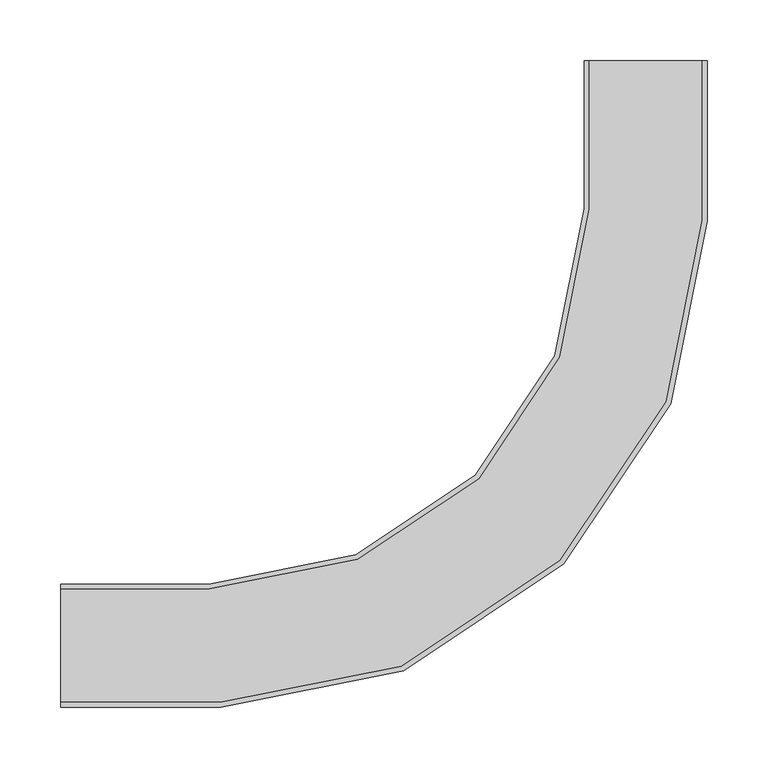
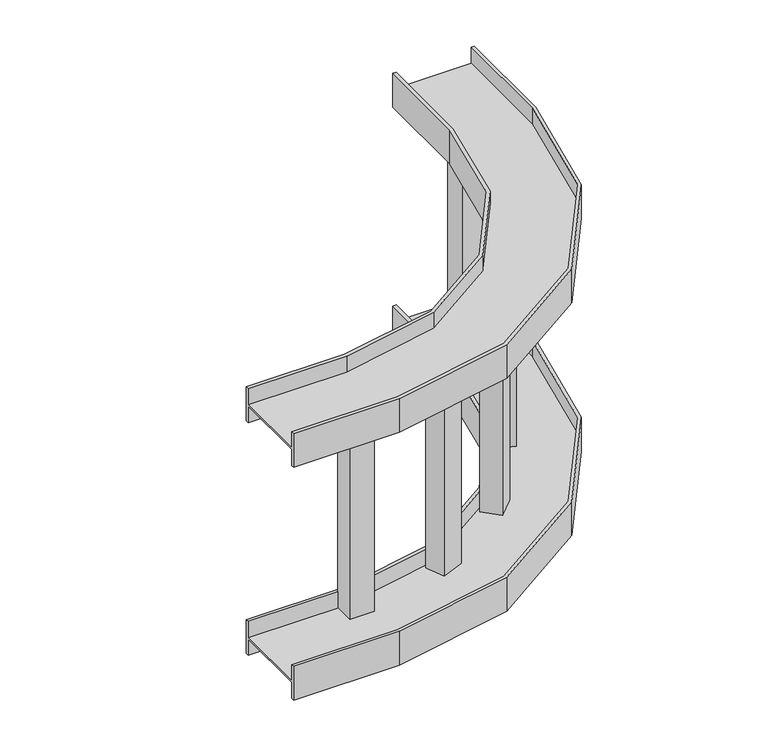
"""IFC4 building model written with IfcOpenShell, lengths in millimetres: cable carrier fitting geometry, CXI_Vertical_Outside_Bend-Basortrav : Basortrav CXI-12."""

from ifc_helpers import new_model, si_unit, frame, origin, place, context, project, spatial, polyline, outline, extrude, faceted_brep, source, transform, mapped, element, save


def cable_carrier_fitting_e62e78b4(model_context):
    return source(origin(), model_context, "Body", "SolidModel", [
        faceted_brep([(-482.6, -46.8, 175.5115599), (-482.6, -46.8, 154.4), (-482.6, 46.8, 154.4), (-482.6, 46.8, 175.5115599), (-482.6, 50.8, 175.5115599), (-482.6, 50.8, 131.0115599), (-482.6, 46.8, 131.0115599), (-482.6, 46.8, 152.4), (-482.6, -46.8, 152.4), (-482.6, -46.8, 131.0115599), (-482.6, -50.8, 131.0115599), (-482.6, -50.8, 175.5115599), (46.8, 482.6, 175.5115599), (50.8, 482.6, 175.5115599), (50.8, 482.6, 131.0115599), (46.8, 482.6, 131.0115599), (46.8, 482.6, 152.4), (-46.8, 482.6, 152.4), (-46.8, 482.6, 131.0115599), (-50.8, 482.6, 131.0115599), (-50.8, 482.6, 175.5115599), (-46.8, 482.6, 175.5115599), (-46.8, 482.6, 154.4), (46.8, 482.6, 154.4), (-350.9906023, -46.8, 175.5115599), (-350.9906023, -46.8, 154.4), (-201.2573173, -17.0161978, 154.4), (-70.4119089, 70.4119089, 154.4), (17.0161978, 201.2573173, 154.4), (46.8, 350.9906023, 154.4), (-46.8, 360.2093977, 154.4), (-71.1530743, 237.7782256, 154.4), (-137.8937483, 137.8937483, 154.4), (-237.7782256, 71.1530743, 154.4), (-360.2093977, 46.8, 154.4), (-360.2093977, 46.8, 175.5115599), (-237.7782256, 71.1530743, 175.5115599), (-137.8937483, 137.8937483, 175.5115599), (-71.1530743, 237.7782256, 175.5115599), (-46.8, 360.2093977, 175.5115599), (-50.8, 360.6033633, 175.5115599), (-74.9209919, 239.3389482, 175.5115599), (-140.7775876, 140.7775876, 175.5115599), (-239.3389482, 74.9209919, 175.5115599), (-360.6033633, 50.8, 175.5115599), (-360.6033633, 50.8, 131.0115599), (-239.3389482, 74.9209919, 131.0115599), (-140.7775876, 140.7775876, 131.0115599), (-74.9209919, 239.3389482, 131.0115599), (-50.8, 360.6033633, 131.0115599), (-46.8, 360.2093977, 131.0115599), (-71.1530743, 237.7782256, 131.0115599), (-137.8937483, 137.8937483, 131.0115599), (-237.7782256, 71.1530743, 131.0115599), (-360.2093977, 46.8, 131.0115599), (-360.2093977, 46.8, 152.4), (-237.7782256, 71.1530743, 152.4), (-137.8937483, 137.8937483, 152.4), (-71.1530743, 237.7782256, 152.4), (-46.8, 360.2093977, 152.4), (46.8, 350.9906023, 152.4), (17.0161978, 201.2573173, 152.4), (-70.4119089, 70.4119089, 152.4), (-201.2573173, -17.0161978, 152.4), (-350.9906023, -46.8, 152.4), (-350.9906023, -46.8, 131.0115599), (-201.2573173, -17.0161978, 131.0115599), (-70.4119089, 70.4119089, 131.0115599), (17.0161978, 201.2573173, 131.0115599), (46.8, 350.9906023, 131.0115599), (50.8, 350.5966367, 131.0115599), (20.7841154, 199.6965947, 131.0115599), (-67.5280697, 67.5280697, 131.0115599), (-199.6965947, -20.7841154, 131.0115599), (-350.5966367, -50.8, 131.0115599), (-350.5966367, -50.8, 175.5115599), (-199.6965947, -20.7841154, 175.5115599), (-67.5280697, 67.5280697, 175.5115599), (20.7841154, 199.6965947, 175.5115599), (50.8, 350.5966367, 175.5115599), (46.8, 350.9906023, 175.5115599), (17.0161978, 201.2573173, 175.5115599), (-70.4119089, 70.4119089, 175.5115599), (-201.2573173, -17.0161978, 175.5115599)], [[[0, 1, 2, 3, 4, 5, 6, 7, 8, 9, 10, 11]], [[12, 13, 14, 15, 16, 17, 18, 19, 20, 21, 22, 23]], [[1, 0, 24, 25]], [[2, 1, 25, 26, 27, 28, 29, 23, 22, 30, 31, 32, 33, 34]], [[3, 2, 34, 35]], [[4, 3, 35, 36, 37, 38, 39, 21, 20, 40, 41, 42, 43, 44]], [[5, 4, 44, 45]], [[6, 5, 45, 46, 47, 48, 49, 19, 18, 50, 51, 52, 53, 54]], [[7, 6, 54, 55]], [[8, 7, 55, 56, 57, 58, 59, 17, 16, 60, 61, 62, 63, 64]], [[9, 8, 64, 65]], [[10, 9, 65, 66, 67, 68, 69, 15, 14, 70, 71, 72, 73, 74]], [[11, 10, 74, 75]], [[0, 11, 75, 76, 77, 78, 79, 13, 12, 80, 81, 82, 83, 24]], [[29, 80, 12, 23]], [[39, 30, 22, 21]], [[49, 40, 20, 19]], [[59, 50, 18, 17]], [[69, 60, 16, 15]], [[79, 70, 14, 13]], [[25, 24, 83, 26]], [[35, 34, 33, 36]], [[45, 44, 43, 46]], [[55, 54, 53, 56]], [[65, 64, 63, 66]], [[75, 74, 73, 76]], [[26, 83, 82, 27]], [[36, 33, 32, 37]], [[46, 43, 42, 47]], [[56, 53, 52, 57]], [[66, 63, 62, 67]], [[76, 73, 72, 77]], [[27, 82, 81, 28]], [[37, 32, 31, 38]], [[47, 42, 41, 48]], [[57, 52, 51, 58]], [[67, 62, 61, 68]], [[77, 72, 71, 78]], [[28, 81, 80, 29]], [[38, 31, 30, 39]], [[48, 41, 40, 49]], [[58, 51, 50, 59]], [[68, 61, 60, 69]], [[78, 71, 70, 79]]]),
        faceted_brep([(-482.6, -46.8, -175.5115599), (-482.6, -50.8, -175.5115599), (-482.6, -50.8, -131.0115599), (-482.6, -46.8, -131.0115599), (-482.6, -46.8, -152.4), (-482.6, 46.8, -152.4), (-482.6, 46.8, -131.0115599), (-482.6, 50.8, -131.0115599), (-482.6, 50.8, -175.5115599), (-482.6, 46.8, -175.5115599), (-482.6, 46.8, -154.4), (-482.6, -46.8, -154.4), (46.8, 482.6, -175.5115599), (46.8, 482.6, -154.4), (-46.8, 482.6, -154.4), (-46.8, 482.6, -175.5115599), (-50.8, 482.6, -175.5115599), (-50.8, 482.6, -131.0115599), (-46.8, 482.6, -131.0115599), (-46.8, 482.6, -152.4), (46.8, 482.6, -152.4), (46.8, 482.6, -131.0115599), (50.8, 482.6, -131.0115599), (50.8, 482.6, -175.5115599), (-350.9906023, -46.8, -175.5115599), (-201.2573173, -17.0161978, -175.5115599), (-70.4119089, 70.4119089, -175.5115599), (17.0161978, 201.2573173, -175.5115599), (46.8, 350.9906023, -175.5115599), (50.8, 350.5966367, -175.5115599), (20.7841154, 199.6965947, -175.5115599), (-67.5280697, 67.5280697, -175.5115599), (-199.6965947, -20.7841154, -175.5115599), (-350.5966367, -50.8, -175.5115599), (-350.5966367, -50.8, -131.0115599), (-199.6965947, -20.7841154, -131.0115599), (-67.5280697, 67.5280697, -131.0115599), (20.7841154, 199.6965947, -131.0115599), (50.8, 350.5966367, -131.0115599), (46.8, 350.9906023, -131.0115599), (17.0161978, 201.2573173, -131.0115599), (-70.4119089, 70.4119089, -131.0115599), (-201.2573173, -17.0161978, -131.0115599), (-350.9906023, -46.8, -131.0115599), (-350.9906023, -46.8, -152.4), (-201.2573173, -17.0161978, -152.4), (-70.4119089, 70.4119089, -152.4), (17.0161978, 201.2573173, -152.4), (46.8, 350.9906023, -152.4), (-46.8, 360.2093977, -152.4), (-71.1530743, 237.7782256, -152.4), (-137.8937483, 137.8937483, -152.4), (-237.7782256, 71.1530743, -152.4), (-360.2093977, 46.8, -152.4), (-360.2093977, 46.8, -131.0115599), (-237.7782256, 71.1530743, -131.0115599), (-137.8937483, 137.8937483, -131.0115599), (-71.1530743, 237.7782256, -131.0115599), (-46.8, 360.2093977, -131.0115599), (-50.8, 360.6033633, -131.0115599), (-74.9209919, 239.3389482, -131.0115599), (-140.7775876, 140.7775876, -131.0115599), (-239.3389482, 74.9209919, -131.0115599), (-360.6033633, 50.8, -131.0115599), (-360.6033633, 50.8, -175.5115599), (-239.3389482, 74.9209919, -175.5115599), (-140.7775876, 140.7775876, -175.5115599), (-74.9209919, 239.3389482, -175.5115599), (-50.8, 360.6033633, -175.5115599), (-46.8, 360.2093977, -175.5115599), (-71.1530743, 237.7782256, -175.5115599), (-137.8937483, 137.8937483, -175.5115599), (-237.7782256, 71.1530743, -175.5115599), (-360.2093977, 46.8, -175.5115599), (-360.2093977, 46.8, -154.4), (-237.7782256, 71.1530743, -154.4), (-137.8937483, 137.8937483, -154.4), (-71.1530743, 237.7782256, -154.4), (-46.8, 360.2093977, -154.4), (46.8, 350.9906023, -154.4), (17.0161978, 201.2573173, -154.4), (-70.4119089, 70.4119089, -154.4), (-201.2573173, -17.0161978, -154.4), (-350.9906023, -46.8, -154.4)], [[[0, 1, 2, 3, 4, 5, 6, 7, 8, 9, 10, 11]], [[12, 13, 14, 15, 16, 17, 18, 19, 20, 21, 22, 23]], [[1, 0, 24, 25, 26, 27, 28, 12, 23, 29, 30, 31, 32, 33]], [[2, 1, 33, 34]], [[3, 2, 34, 35, 36, 37, 38, 22, 21, 39, 40, 41, 42, 43]], [[4, 3, 43, 44]], [[5, 4, 44, 45, 46, 47, 48, 20, 19, 49, 50, 51, 52, 53]], [[6, 5, 53, 54]], [[7, 6, 54, 55, 56, 57, 58, 18, 17, 59, 60, 61, 62, 63]], [[8, 7, 63, 64]], [[9, 8, 64, 65, 66, 67, 68, 16, 15, 69, 70, 71, 72, 73]], [[10, 9, 73, 74]], [[11, 10, 74, 75, 76, 77, 78, 14, 13, 79, 80, 81, 82, 83]], [[0, 11, 83, 24]], [[38, 29, 23, 22]], [[48, 39, 21, 20]], [[58, 49, 19, 18]], [[68, 59, 17, 16]], [[78, 69, 15, 14]], [[28, 79, 13, 12]], [[34, 33, 32, 35]], [[44, 43, 42, 45]], [[54, 53, 52, 55]], [[64, 63, 62, 65]], [[74, 73, 72, 75]], [[24, 83, 82, 25]], [[35, 32, 31, 36]], [[45, 42, 41, 46]], [[55, 52, 51, 56]], [[65, 62, 61, 66]], [[75, 72, 71, 76]], [[25, 82, 81, 26]], [[36, 31, 30, 37]], [[46, 41, 40, 47]], [[56, 51, 50, 57]], [[66, 61, 60, 67]], [[76, 71, 70, 77]], [[26, 81, 80, 27]], [[37, 30, 29, 38]], [[47, 40, 39, 48]], [[57, 50, 49, 58]], [[67, 60, 59, 68]], [[77, 70, 69, 78]], [[27, 80, 79, 28]]]),
        extrude(outline(polyline([(-64.470078, 251.516519), (-41.0035379, 241.7963598), (-52.6753826, 213.618034), (-76.1419227, 223.3381932), (-64.470078, 251.516519)])), frame((0.0, 0.0, -152.4), z_axis=(0.0, 0.0, 1.0), x_axis=(1.0, 0.0, 0.0)), (0.0, 0.0, 1.0), 304.8),
        extrude(outline(polyline([(-223.3381932, 76.1419227), (-213.618034, 52.6753826), (-241.7963598, 41.0035379), (-251.516519, 64.470078), (-223.3381932, 76.1419227)])), frame((0.0, 0.0, -152.4), z_axis=(0.0, 0.0, 1.0), x_axis=(1.0, 0.0, 0.0)), (0.0, 0.0, 1.0), 304.8),
        extrude(outline(polyline([(-46.8, 370.85), (-21.4, 370.85), (-21.4, 340.35), (-46.8, 340.35), (-46.8, 370.85)])), frame((0.0, 0.0, -152.4), z_axis=(0.0, 0.0, 1.0), x_axis=(1.0, 0.0, 0.0)), (0.0, 0.0, 1.0), 304.8),
        extrude(outline(polyline([(-126.4620476, 148.0288044), (-108.5015353, 130.0682921), (-130.0682921, 108.5015353), (-148.0288044, 126.4620476), (-126.4620476, 148.0288044)])), frame((0.0, 0.0, -152.4), z_axis=(0.0, 0.0, 1.0), x_axis=(1.0, 0.0, 0.0)), (0.0, 0.0, 1.0), 304.8),
        extrude(outline(polyline([(-370.85, 21.4), (-370.85, 46.8), (-340.35, 46.8), (-340.35, 21.4), (-370.85, 21.4)])), frame((0.0, 0.0, -152.4), z_axis=(0.0, 0.0, 1.0), x_axis=(1.0, 0.0, 0.0)), (0.0, 0.0, 1.0), 304.8),
    ])


if __name__ == "__main__":
    model = new_model("IFC4")
    model_context = context("Model", 3, world=origin())
    ifc_project = project(units=[si_unit("LENGTHUNIT", "METRE", prefix="MILLI")], contexts=[model_context])
    site = spatial("IfcSite", under=ifc_project)
    building = spatial("IfcBuilding", under=site)
    placement = place(None, origin())
    cable_carrier_fitting_shape = cable_carrier_fitting_e62e78b4(model_context)
    element("IfcCableCarrierFitting", 1, ObjectType="CXI_Vertical_Outside_Bend-Basortrav : Basortrav CXI-12", at=placement, inside=building, context=model_context, shape_type="MappedRepresentation", body=[
        mapped(cable_carrier_fitting_shape, transform((0.0, 0.0, 0.0), x_axis=(1.0, 0.0, 0.0), y_axis=(0.0, 1.0, 0.0), z_axis=(0.0, 0.0, 1.0))),
    ])
    save(model, "model.ifc")
